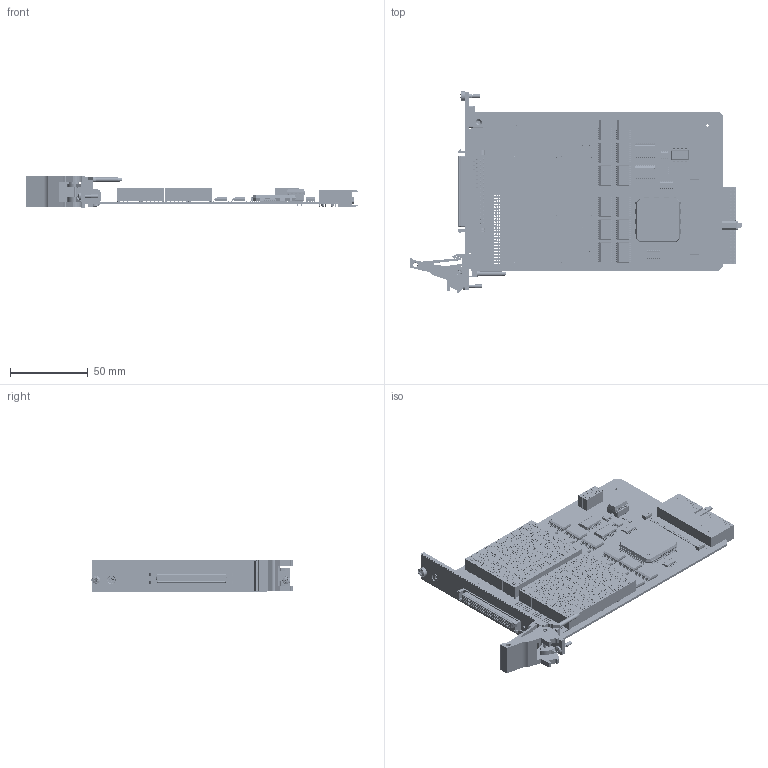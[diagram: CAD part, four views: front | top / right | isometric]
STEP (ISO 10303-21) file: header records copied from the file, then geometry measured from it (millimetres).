
FILE_DESCRIPTION (( 'STEP AP214' ), '1' );
FILE_NAME ('40-511-022 BASIC ASSY-S20.STEP', '2015-09-03T14:40:26', ( 'HPHP' ), ( 'Hewlett-Packard Company' ), 'SwSTEP 2.0', 'SolidWorks 2014', '' );
FILE_SCHEMA (( 'AUTOMOTIVE_DESIGN' ));
Length unit declared in the file: millimetre
Products named in the file (37): C-RS-102 RES 4x10R 1206 1-16W 5% 200PPM; C-FX-165 Handle Pin; C-RS-079 Res N-W 4x10K 1206 CRA3A4E10K; C-FX-165 Handle Finger; C-CN-035 SOCKET IC 8 WAY DIL low profil_Výchozí; C-FX-165 Handle Body; Z-FX-2001 FP Fixing - Bush + Screw; C-RS-147 Res 100R 0603 1-16W 1% 100PPM; P-FX-017 M2,5 Collar Posi-Slot Screw; C-IC-090 IC M 93C56_No Text; C-BK-026 Bush Front Panel Mounting; C-IC-219 PLX PCI9052; A-FP-148 Front Panel C-FP-148 Assembly; C-CP-160 Cap 10uF 16V Tant Smt (C.CASE); L-FP-148 Label Assy; C-IC-099 DIP8 Package_No Text; L-FP-148-# Label for C-FP-148; C-CN-355 Compact pci connector 3; C-FP-148 PXI 1-Slot SCSI 68 Way; C-PC-200 PXI Matrix PCB Assy; C-BP-015 PXI 3U x 1 Slot Blank Panel; A-PC-200-V01 PXI MATRIX SMT ASSY; C-FX-524 Screw 2-56UNC 3-16`` PanHD Pozi_ISO 7045 - M2.5 x 6 - Z --- 6N; 40-511-022 BASIC ASSY-S20; C-RL-226 Micro SIL Relay 109-2-A-5-1D; C-CN-363 Connector female SCSI 68-pin; A-PC-200-# PXI Matrix PCB Assy; A-FP-148-L1 PXI 1-slot SCSI 68 WAY; C-IC-087 IC 74HCT32D Logic IC Smt_No Text; C-FX-101 M2.5x6mm Pan Head Cross Recess Screw_ISO_ISO 7045 - M2.5 x 6 - Z --- 6N; C-FX-042 Screw M2.5x6 CSK Pozi_M 2.5x06 - C-FX-042; C-IC-101 IC 74HCT244 SMD; C-FX-025 Pcb Mounting Bracket; C-IC-100 IC 74HCT273 SMD_Without Pckage Description; C-FX-165 CPCI Ejector Handle; C-IC-102 IC 74ACT273 SMD_Without Pckage Description; L-FX-165 PXI Handle Label
Assembly tree (164 placements, depth 5):
  40-511-022 BASIC ASSY-S20
    A-PC-200-V01 PXI MATRIX SMT ASSY
      A-PC-200-# PXI Matrix PCB Assy
        C-PC-200 PXI Matrix PCB Assy
        C-CN-355 Compact pci connector 3
        C-IC-099 DIP8 Package_No Text
        C-CP-160 Cap 10uF 16V Tant Smt (C.CASE)  x2
        C-IC-219 PLX PCI9052
        C-IC-090 IC M 93C56_No Text  x2
        C-RS-147 Res 100R 0603 1-16W 1% 100PPM  x2
        C-CN-035 SOCKET IC 8 WAY DIL low profil_Výchozí
        C-RS-079 Res N-W 4x10K 1206 CRA3A4E10K  x2
        C-RS-102 RES 4x10R 1206 1-16W 5% 200PPM  x12
        C-IC-102 IC 74ACT273 SMD_Without Pckage Description  x12
        C-IC-100 IC 74HCT273 SMD_Without Pckage Description
        C-IC-101 IC 74HCT244 SMD
        C-IC-087 IC 74HCT32D Logic IC Smt_No Text  x2
      C-RL-226 Micro SIL Relay 109-2-A-5-1D  x98
    A-FP-148-L1 PXI 1-slot SCSI 68 WAY
      A-FP-148 Front Panel C-FP-148 Assembly
        C-FP-148 PXI 1-Slot SCSI 68 Way
          C-BP-015 PXI 3U x 1 Slot Blank Panel
        L-FP-148 Label Assy
          L-FP-148-# Label for C-FP-148
      Z-FX-2001 FP Fixing - Bush + Screw
        C-BK-026 Bush Front Panel Mounting
        P-FX-017 M2,5 Collar Posi-Slot Screw
      C-FX-165 CPCI Ejector Handle
        C-FX-165 Handle Body
        C-FX-165 Handle Finger
        C-FX-165 Handle Pin
        P-FX-017 M2,5 Collar Posi-Slot Screw
        L-FX-165 PXI Handle Label
      C-FX-025 Pcb Mounting Bracket
      C-FX-042 Screw M2.5x6 CSK Pozi_M 2.5x06 - C-FX-042
      C-FX-101 M2.5x6mm Pan Head Cross Recess Screw_ISO_ISO 7045 - M2.5 x 6 - Z --- 6N
    C-CN-363 Connector female SCSI 68-pin
    C-FX-524 Screw 2-56UNC 3-16`` PanHD Pozi_ISO 7045 - M2.5 x 6 - Z --- 6N  x2
    C-FX-101 M2.5x6mm Pan Head Cross Recess Screw_ISO_ISO 7045 - M2.5 x 6 - Z --- 6N  x2
Bounding box: 214.02 x 129.67 x 20 mm (x, y, z)
Volume: 102246.7 mm3; surface area: 137531.9 mm2
Topology: 388 solids, 415 shells, 51673 faces, 134909 edges, 88044 vertices
Faces by surface type: plane 36945, bspline 9464, cylinder 5036, cone 224, sphere 4
Entity records: 473510 total; most frequent: CARTESIAN_POINT 76619, ORIENTED_EDGE 56388, DIRECTION 54638, EDGE_CURVE 28196, LINE 21768, VECTOR 21768, VERTEX_POINT 18294, AXIS2_PLACEMENT_3D 16435
